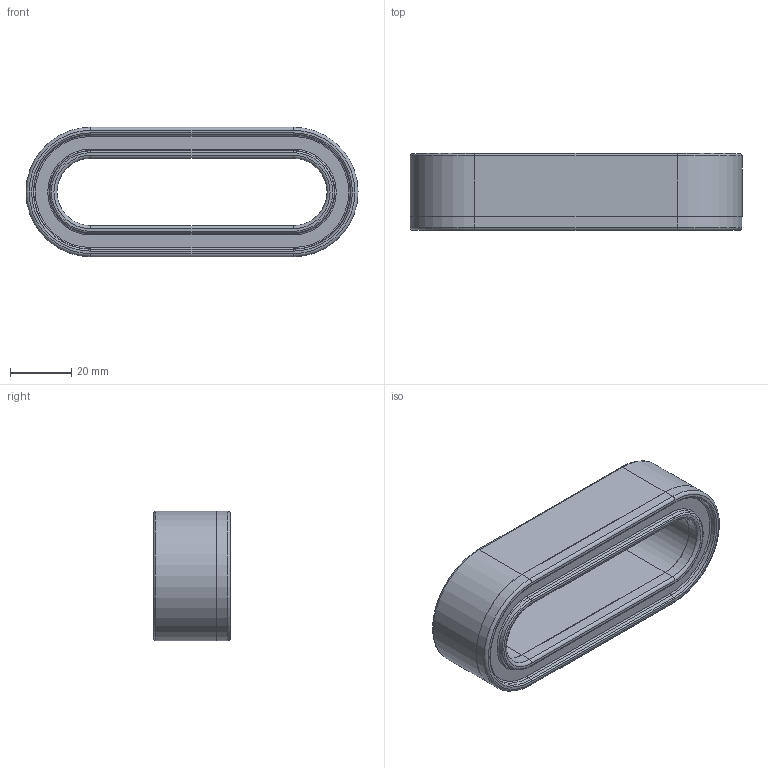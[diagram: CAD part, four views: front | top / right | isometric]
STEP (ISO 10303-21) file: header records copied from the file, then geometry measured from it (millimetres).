
FILE_DESCRIPTION(/* description */ (''),/* implementation_level */ '2;1');
FILE_NAME(/* name */ 'G:\KB-FTKon\CAD\Inventor\Kundenmodelle\Kerne\V281\V281_Shrinkwrap_1.stp',/* time_stamp */ '2020-01-13T10:34:12+01:00',/* author */ ('de881284'),/* organization */ (''),/* preprocessor_version */ 'ST-DEVELOPER v18',/* originating_system */ 'Autodesk Inventor 2020',/* authorisation */ '');
FILE_SCHEMA (('AUTOMOTIVE_DESIGN { 1 0 10303 214 3 1 1 }'));
Length unit declared in the file: millimetre
Products named in the file (1): V281_Shrinkwrap_1
Bounding box: 108.2 x 25.05 x 42.2 mm (x, y, z)
Volume: 56276.3 mm3; surface area: 17364.1 mm2
Topology: 1 solids, 1 shells, 80 faces, 176 edges, 104 vertices
Faces by surface type: cylinder 28, plane 28, torus 16, cone 8
Entity records: 2327 total; most frequent: DIRECTION 422, CARTESIAN_POINT 361, ORIENTED_EDGE 352, EDGE_CURVE 176, AXIS2_PLACEMENT_3D 165, VERTEX_POINT 104, LINE 92, VECTOR 92
